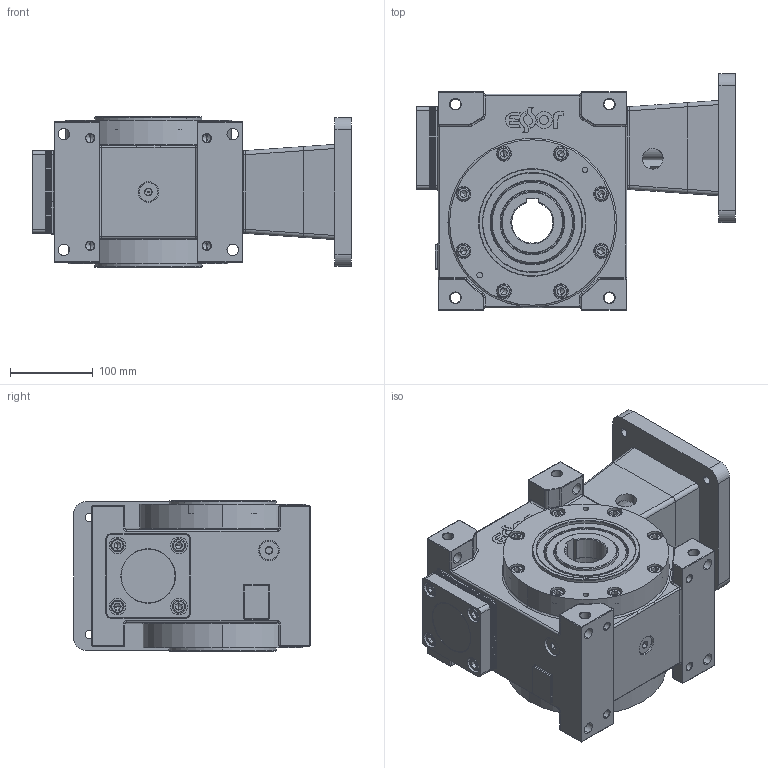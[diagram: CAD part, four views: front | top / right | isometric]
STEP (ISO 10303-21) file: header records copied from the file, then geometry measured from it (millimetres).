
FILE_DESCRIPTION (( 'STEP AP203' ), '1' );
FILE_NAME ('EDB90P4MFP200 114.3砦諳.STEP', '2021-10-06T06:38:17', ( '' ), ( '' ), 'SwSTEP 2.0', 'SolidWorks 2019', '' );
FILE_SCHEMA (( 'CONFIG_CONTROL_DESIGN' ));
Length unit declared in the file: millimetre
Products named in the file (1): EDB90P4MFP200 114.3砦諳
Bounding box: 385.5 x 286 x 182 mm (x, y, z)
Volume: 10011863.9 mm3; surface area: 850352.1 mm2
Topology: 37 solids, 40 shells, 1945 faces, 5180 edges, 3217 vertices
Faces by surface type: plane 651, cylinder 642, cone 346, torus 259, sphere 29, bspline 18
Entity records: 65803 total; most frequent: CARTESIAN_POINT 17798, DIRECTION 10293, ORIENTED_EDGE 10014, EDGE_CURVE 5007, AXIS2_PLACEMENT_3D 4168, VERTEX_POINT 3161, CIRCLE 2240, EDGE_LOOP 2216
